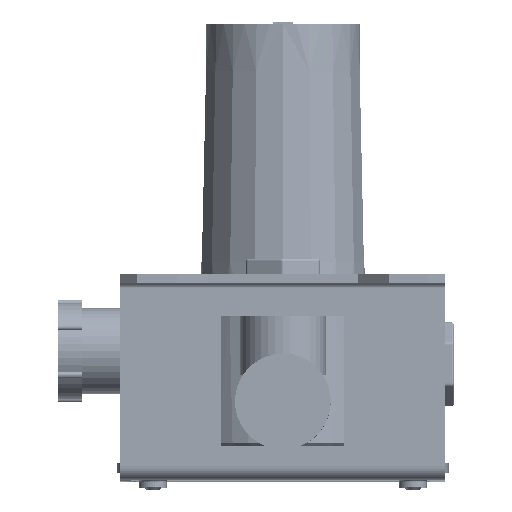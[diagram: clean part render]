
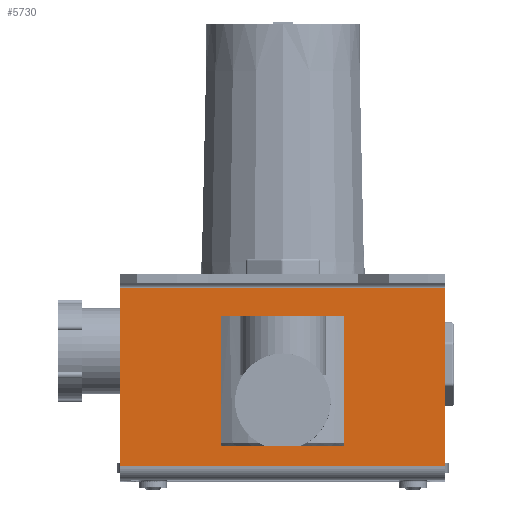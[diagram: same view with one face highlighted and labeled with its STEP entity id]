
A CAD part, top view. The second image highlights one B-rep face of the part: STEP entity #5730.
In plain terms, the highlighted planar face has unit normal (0, 0, 1) as drawn and (-1, 0, 0) by its records, which use the part's own axes.
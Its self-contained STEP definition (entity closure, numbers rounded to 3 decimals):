
#4182=DIRECTION('',(0.,0.,-1.));
#4183=VECTOR('',#4182,95.);
#4184=CARTESIAN_POINT('',(68.,56.,47.5));
#4185=LINE('',#4184,#4183);
#4221=DIRECTION('',(0.,1.,0.));
#4222=VECTOR('',#4221,52.);
#4223=CARTESIAN_POINT('',(68.,4.,47.5));
#4224=LINE('',#4223,#4222);
#4480=DIRECTION('',(0.,0.,1.));
#4481=VECTOR('',#4480,95.);
#4482=CARTESIAN_POINT('',(68.,4.,-47.5));
#4483=LINE('',#4482,#4481);
#4484=DIRECTION('',(0.,1.,0.));
#4485=VECTOR('',#4484,52.);
#4486=CARTESIAN_POINT('',(68.,4.,-47.5));
#4487=LINE('',#4486,#4485);
#4492=DIRECTION('',(0.,1.,0.));
#4493=VECTOR('',#4492,38.);
#4494=CARTESIAN_POINT('',(68.,12.,-18.));
#4495=LINE('',#4494,#4493);
#4500=DIRECTION('',(0.,0.,-1.));
#4501=VECTOR('',#4500,36.);
#4502=CARTESIAN_POINT('',(68.,12.,18.));
#4503=LINE('',#4502,#4501);
#4508=DIRECTION('',(0.,-1.,0.));
#4509=VECTOR('',#4508,38.);
#4510=CARTESIAN_POINT('',(68.,50.,18.));
#4511=LINE('',#4510,#4509);
#4516=DIRECTION('',(0.,0.,1.));
#4517=VECTOR('',#4516,36.);
#4518=CARTESIAN_POINT('',(68.,50.,-18.));
#4519=LINE('',#4518,#4517);
#4912=CARTESIAN_POINT('',(68.,56.,-47.5));
#4913=VERTEX_POINT('',#4912);
#4914=CARTESIAN_POINT('',(68.,4.,-47.5));
#4915=VERTEX_POINT('',#4914);
#5038=CARTESIAN_POINT('',(68.,4.,47.5));
#5039=VERTEX_POINT('',#5038);
#5040=CARTESIAN_POINT('',(68.,56.,47.5));
#5041=VERTEX_POINT('',#5040);
#5150=CARTESIAN_POINT('',(68.,12.,-18.));
#5151=CARTESIAN_POINT('',(68.,50.,-18.));
#5152=VERTEX_POINT('',#5150);
#5153=VERTEX_POINT('',#5151);
#5154=CARTESIAN_POINT('',(68.,12.,18.));
#5155=VERTEX_POINT('',#5154);
#5156=CARTESIAN_POINT('',(68.,50.,18.));
#5157=VERTEX_POINT('',#5156);
#5709=CARTESIAN_POINT('',(68.,60.,-47.5));
#5710=DIRECTION('',(-1.,0.,0.));
#5711=DIRECTION('',(0.,-1.,0.));
#5712=AXIS2_PLACEMENT_3D('',#5709,#5710,#5711);
#5713=PLANE('',#5712);
#5714=ORIENTED_EDGE('',*,*,#5703,.F.);
#5715=ORIENTED_EDGE('',*,*,#5403,.T.);
#5716=ORIENTED_EDGE('',*,*,#5432,.F.);
#5717=ORIENTED_EDGE('',*,*,#5458,.F.);
#5718=EDGE_LOOP('',(#5714,#5715,#5716,#5717));
#5719=FACE_OUTER_BOUND('',#5718,.F.);
#5721=ORIENTED_EDGE('',*,*,#5720,.F.);
#5723=ORIENTED_EDGE('',*,*,#5722,.F.);
#5725=ORIENTED_EDGE('',*,*,#5724,.F.);
#5727=ORIENTED_EDGE('',*,*,#5726,.F.);
#5728=EDGE_LOOP('',(#5721,#5723,#5725,#5727));
#5729=FACE_BOUND('',#5728,.F.);
#5403=EDGE_CURVE('',#4915,#4913,#4487,.T.);
#5432=EDGE_CURVE('',#5041,#4913,#4185,.T.);
#5458=EDGE_CURVE('',#5039,#5041,#4224,.T.);
#5703=EDGE_CURVE('',#4915,#5039,#4483,.T.);
#5720=EDGE_CURVE('',#5152,#5153,#4495,.T.);
#5722=EDGE_CURVE('',#5155,#5152,#4503,.T.);
#5724=EDGE_CURVE('',#5157,#5155,#4511,.T.);
#5726=EDGE_CURVE('',#5153,#5157,#4519,.T.);
#5730=ADVANCED_FACE('',(#5719,#5729),#5713,.T.);
